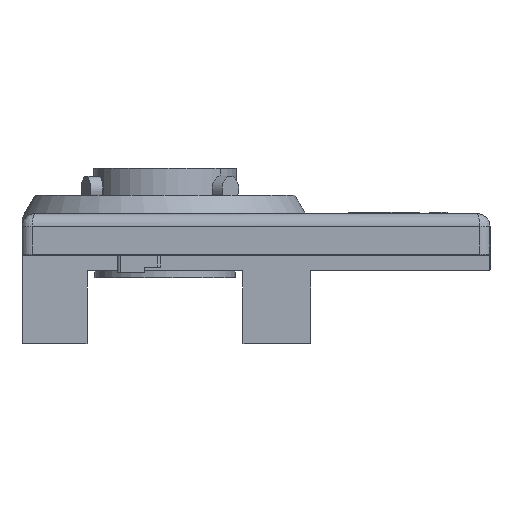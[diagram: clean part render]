
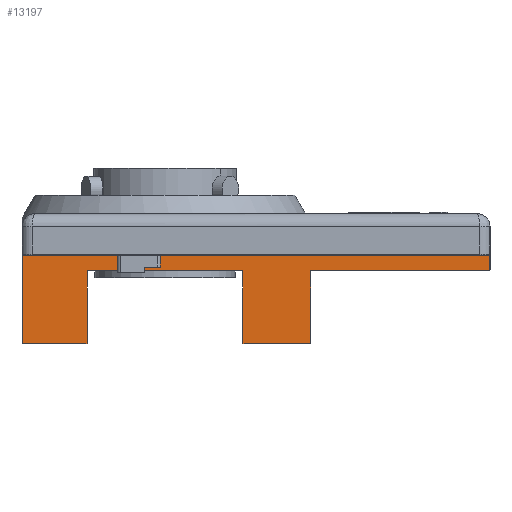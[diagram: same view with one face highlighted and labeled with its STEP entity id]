
A CAD part, left-side view. The second image highlights one B-rep face of the part: STEP entity #13197.
In plain terms, the highlighted planar face has unit normal (-1, 0, 0).
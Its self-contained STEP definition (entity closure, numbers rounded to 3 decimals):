
#560=PLANE('',#14126);
#936=LINE('',#17318,#2169);
#939=LINE('',#17330,#2172);
#952=LINE('',#17410,#2185);
#953=LINE('',#17414,#2186);
#954=LINE('',#17418,#2187);
#955=LINE('',#17420,#2188);
#956=LINE('',#17421,#2189);
#957=LINE('',#17423,#2190);
#958=LINE('',#17425,#2191);
#959=LINE('',#17426,#2192);
#2169=VECTOR('',#14762,10.);
#2172=VECTOR('',#14771,10.);
#2185=VECTOR('',#14844,10.);
#2186=VECTOR('',#14847,10.);
#2187=VECTOR('',#14850,10.);
#2188=VECTOR('',#14851,10.);
#2189=VECTOR('',#14852,10.);
#2190=VECTOR('',#14853,10.);
#2191=VECTOR('',#14854,10.);
#2192=VECTOR('',#14855,10.);
#3414=FACE_OUTER_BOUND('',#4180,.T.);
#4180=EDGE_LOOP('',(#9226,#9227,#9228,#9229,#9230,#9231,#9232,#9233,#9234,
#9235,#9236,#9237,#9238));
#5044=CIRCLE('',#14124,0.2);
#5045=CIRCLE('',#14127,0.2);
#5046=CIRCLE('',#14128,0.2);
#5803=VERTEX_POINT('',#17314);
#5805=VERTEX_POINT('',#17317);
#5810=VERTEX_POINT('',#17327);
#5811=VERTEX_POINT('',#17329);
#5836=VERTEX_POINT('',#17403);
#5838=VERTEX_POINT('',#17409);
#5839=VERTEX_POINT('',#17411);
#5840=VERTEX_POINT('',#17413);
#5841=VERTEX_POINT('',#17415);
#5842=VERTEX_POINT('',#17417);
#5843=VERTEX_POINT('',#17419);
#5844=VERTEX_POINT('',#17422);
#5845=VERTEX_POINT('',#17424);
#7148=EDGE_CURVE('',#5803,#5805,#936,.T.);
#7154=EDGE_CURVE('',#5811,#5810,#939,.T.);
#7187=EDGE_CURVE('',#5836,#5803,#5044,.T.);
#7190=EDGE_CURVE('',#5838,#5836,#952,.T.);
#7191=EDGE_CURVE('',#5839,#5838,#5045,.F.);
#7192=EDGE_CURVE('',#5840,#5839,#953,.T.);
#7193=EDGE_CURVE('',#5841,#5840,#5046,.F.);
#7194=EDGE_CURVE('',#5842,#5841,#954,.T.);
#7195=EDGE_CURVE('',#5843,#5842,#955,.T.);
#7196=EDGE_CURVE('',#5843,#5811,#956,.T.);
#7197=EDGE_CURVE('',#5810,#5844,#957,.T.);
#7198=EDGE_CURVE('',#5845,#5844,#958,.T.);
#7199=EDGE_CURVE('',#5805,#5845,#959,.T.);
#9226=ORIENTED_EDGE('',*,*,#7187,.F.);
#9227=ORIENTED_EDGE('',*,*,#7190,.F.);
#9228=ORIENTED_EDGE('',*,*,#7191,.F.);
#9229=ORIENTED_EDGE('',*,*,#7192,.F.);
#9230=ORIENTED_EDGE('',*,*,#7193,.F.);
#9231=ORIENTED_EDGE('',*,*,#7194,.F.);
#9232=ORIENTED_EDGE('',*,*,#7195,.F.);
#9233=ORIENTED_EDGE('',*,*,#7196,.T.);
#9234=ORIENTED_EDGE('',*,*,#7154,.T.);
#9235=ORIENTED_EDGE('',*,*,#7197,.T.);
#9236=ORIENTED_EDGE('',*,*,#7198,.F.);
#9237=ORIENTED_EDGE('',*,*,#7199,.F.);
#9238=ORIENTED_EDGE('',*,*,#7148,.F.);
#13197=ADVANCED_FACE('',(#3414),#560,.F.);
#14124=AXIS2_PLACEMENT_3D('',#17404,#14837,#14838);
#14126=AXIS2_PLACEMENT_3D('',#17408,#14842,#14843);
#14127=AXIS2_PLACEMENT_3D('',#17412,#14845,#14846);
#14128=AXIS2_PLACEMENT_3D('',#17416,#14848,#14849);
#14762=DIRECTION('',(0.,1.,0.));
#14771=DIRECTION('',(0.,-1.,0.));
#14837=DIRECTION('center_axis',(1.,0.,0.));
#14838=DIRECTION('ref_axis',(0.,-0.707,-0.707));
#14842=DIRECTION('center_axis',(1.,0.,0.));
#14843=DIRECTION('ref_axis',(0.,0.,-1.));
#14844=DIRECTION('',(0.,0.,-1.));
#14845=DIRECTION('center_axis',(1.,0.,0.));
#14846=DIRECTION('ref_axis',(0.,-0.707,-0.707));
#14847=DIRECTION('',(0.,-1.,0.));
#14848=DIRECTION('center_axis',(1.,0.,0.));
#14849=DIRECTION('ref_axis',(0.,0.707,-0.707));
#14850=DIRECTION('',(0.,0.,1.));
#14851=DIRECTION('',(0.,1.,0.));
#14852=DIRECTION('',(0.,0.,1.));
#14853=DIRECTION('',(0.,0.,-1.));
#14854=DIRECTION('',(0.,1.,0.));
#14855=DIRECTION('',(0.,0.,-1.));
#17314=CARTESIAN_POINT('',(0.,-44.8,0.));
#17317=CARTESIAN_POINT('',(0.,-10.5,0.));
#17318=CARTESIAN_POINT('',(0.,30.634,0.));
#17327=CARTESIAN_POINT('',(0.,2.5,0.));
#17329=CARTESIAN_POINT('',(0.,32.5,0.));
#17330=CARTESIAN_POINT('',(0.,31.25,0.));
#17403=CARTESIAN_POINT('',(0.,-45.,0.2));
#17404=CARTESIAN_POINT('Origin',(0.,-44.8,0.2));
#17408=CARTESIAN_POINT('Origin',(0.,45.,0.));
#17409=CARTESIAN_POINT('',(0.,-45.,3.2));
#17410=CARTESIAN_POINT('',(0.,-45.,0.));
#17411=CARTESIAN_POINT('',(0.,-44.8,3.));
#17412=CARTESIAN_POINT('Origin',(0.,-44.8,3.2));
#17413=CARTESIAN_POINT('',(0.,44.8,3.));
#17414=CARTESIAN_POINT('',(0.,45.,3.));
#17415=CARTESIAN_POINT('',(0.,45.,3.2));
#17416=CARTESIAN_POINT('Origin',(0.,44.8,3.2));
#17417=CARTESIAN_POINT('',(0.,45.,-14.));
#17418=CARTESIAN_POINT('',(0.,45.,0.));
#17419=CARTESIAN_POINT('',(0.,32.5,-14.));
#17420=CARTESIAN_POINT('',(0.,-10.5,-14.));
#17421=CARTESIAN_POINT('',(0.,32.5,-7.));
#17422=CARTESIAN_POINT('',(0.,2.5,-14.));
#17423=CARTESIAN_POINT('',(0.,2.5,-7.));
#17424=CARTESIAN_POINT('',(0.,-10.5,-14.));
#17425=CARTESIAN_POINT('',(0.,-10.5,-14.));
#17426=CARTESIAN_POINT('',(0.,-10.5,0.));
